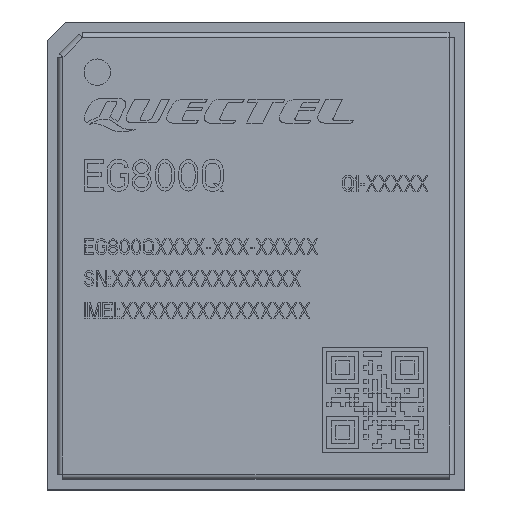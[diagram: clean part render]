
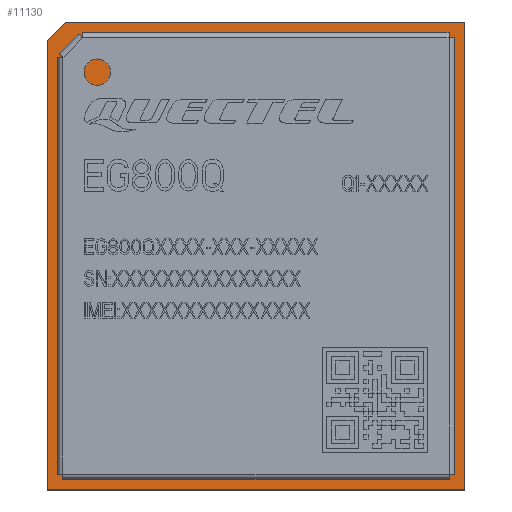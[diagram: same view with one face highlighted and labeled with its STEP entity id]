
A CAD part, top view. The second image highlights one B-rep face of the part: STEP entity #11130.
In plain terms, the highlighted planar face has unit normal (0, 0, 1).
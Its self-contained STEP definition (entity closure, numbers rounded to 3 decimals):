
#12=DIRECTION('',(-0.707,-0.707,0.));
#13=VECTOR('',#12,0.99);
#14=CARTESIAN_POINT('',(0.7,17.7,0.));
#15=LINE('',#14,#13);
#20=DIRECTION('',(-1.,0.,0.));
#21=VECTOR('',#20,15.1);
#22=CARTESIAN_POINT('',(15.8,17.7,0.));
#23=LINE('',#22,#21);
#27=DIRECTION('',(0.,1.,0.));
#28=VECTOR('',#27,17.7);
#29=CARTESIAN_POINT('',(15.8,0.,0.));
#30=LINE('',#29,#28);
#34=DIRECTION('',(1.,0.,0.));
#35=VECTOR('',#34,15.8);
#36=CARTESIAN_POINT('',(0.,0.,0.));
#37=LINE('',#36,#35);
#41=DIRECTION('',(0.,-1.,0.));
#42=VECTOR('',#41,17.);
#43=CARTESIAN_POINT('',(0.,17.,0.));
#44=LINE('',#43,#42);
#9337=CARTESIAN_POINT('',(0.7,17.7,0.));
#9338=CARTESIAN_POINT('',(0.,17.,0.));
#9339=VERTEX_POINT('',#9337);
#9340=VERTEX_POINT('',#9338);
#9341=CARTESIAN_POINT('',(0.,0.,0.));
#9342=VERTEX_POINT('',#9341);
#9343=CARTESIAN_POINT('',(15.8,0.,0.));
#9344=VERTEX_POINT('',#9343);
#9345=CARTESIAN_POINT('',(15.8,17.7,0.));
#9346=VERTEX_POINT('',#9345);
#11113=CARTESIAN_POINT('',(0.,0.,0.));
#11114=DIRECTION('',(0.,0.,1.));
#11115=DIRECTION('',(1.,0.,0.));
#11116=AXIS2_PLACEMENT_3D('',#11113,#11114,#11115);
#11117=PLANE('',#11116);
#11119=ORIENTED_EDGE('',*,*,#11118,.F.);
#11121=ORIENTED_EDGE('',*,*,#11120,.F.);
#11123=ORIENTED_EDGE('',*,*,#11122,.F.);
#11125=ORIENTED_EDGE('',*,*,#11124,.F.);
#11127=ORIENTED_EDGE('',*,*,#11126,.F.);
#11128=EDGE_LOOP('',(#11119,#11121,#11123,#11125,#11127));
#11129=FACE_OUTER_BOUND('',#11128,.F.);
#11118=EDGE_CURVE('',#9339,#9340,#15,.T.);
#11120=EDGE_CURVE('',#9346,#9339,#23,.T.);
#11122=EDGE_CURVE('',#9344,#9346,#30,.T.);
#11124=EDGE_CURVE('',#9342,#9344,#37,.T.);
#11126=EDGE_CURVE('',#9340,#9342,#44,.T.);
#11130=ADVANCED_FACE('',(#11129),#11117,.T.);
